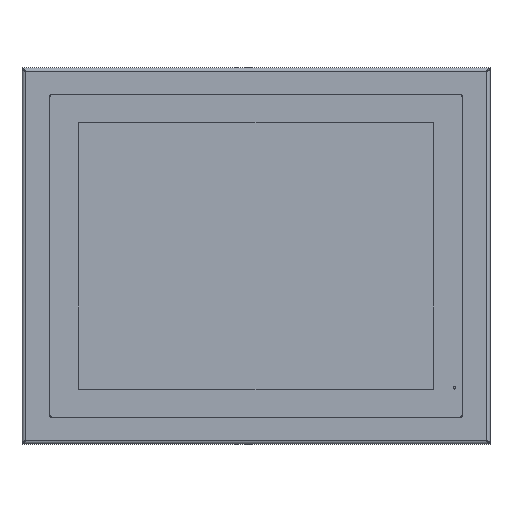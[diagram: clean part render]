
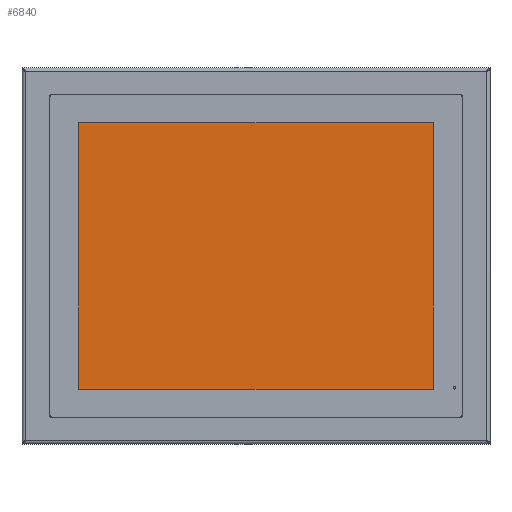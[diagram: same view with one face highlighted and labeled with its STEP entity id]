
A CAD part, top view. The second image highlights one B-rep face of the part: STEP entity #6840.
In plain terms, the highlighted planar face has unit normal (0, 0, 1).
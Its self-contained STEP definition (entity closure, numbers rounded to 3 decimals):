
#6250=DIRECTION('',(0.,-1.,0.));
#6251=VECTOR('',#6250,228.7);
#6252=CARTESIAN_POINT('',(-152.35,114.35,1.4));
#6253=LINE('',#6252,#6251);
#6258=DIRECTION('',(-1.,0.,0.));
#6259=VECTOR('',#6258,304.7);
#6260=CARTESIAN_POINT('',(152.35,114.35,1.4));
#6261=LINE('',#6260,#6259);
#6266=DIRECTION('',(0.,1.,0.));
#6267=VECTOR('',#6266,228.7);
#6268=CARTESIAN_POINT('',(152.35,-114.35,1.4));
#6269=LINE('',#6268,#6267);
#6274=DIRECTION('',(1.,0.,0.));
#6275=VECTOR('',#6274,304.7);
#6276=CARTESIAN_POINT('',(-152.35,-114.35,1.4));
#6277=LINE('',#6276,#6275);
#6520=CARTESIAN_POINT('',(-152.35,114.35,1.4));
#6521=VERTEX_POINT('',#6520);
#6522=CARTESIAN_POINT('',(-152.35,-114.35,1.4));
#6523=VERTEX_POINT('',#6522);
#6524=CARTESIAN_POINT('',(152.35,114.35,1.4));
#6525=VERTEX_POINT('',#6524);
#6526=CARTESIAN_POINT('',(152.35,-114.35,1.4));
#6527=VERTEX_POINT('',#6526);
#6829=CARTESIAN_POINT('',(0.,0.,1.4));
#6830=DIRECTION('',(0.,0.,1.));
#6831=DIRECTION('',(1.,0.,0.));
#6832=AXIS2_PLACEMENT_3D('',#6829,#6830,#6831);
#6833=PLANE('',#6832);
#6834=ORIENTED_EDGE('',*,*,#6781,.F.);
#6835=ORIENTED_EDGE('',*,*,#6796,.F.);
#6836=ORIENTED_EDGE('',*,*,#6810,.F.);
#6837=ORIENTED_EDGE('',*,*,#6823,.F.);
#6838=EDGE_LOOP('',(#6834,#6835,#6836,#6837));
#6839=FACE_OUTER_BOUND('',#6838,.F.);
#6840=ADVANCED_FACE('',(#6839),#6833,.T.);
#6781=EDGE_CURVE('',#6521,#6523,#6253,.T.);
#6796=EDGE_CURVE('',#6525,#6521,#6261,.T.);
#6810=EDGE_CURVE('',#6527,#6525,#6269,.T.);
#6823=EDGE_CURVE('',#6523,#6527,#6277,.T.);
